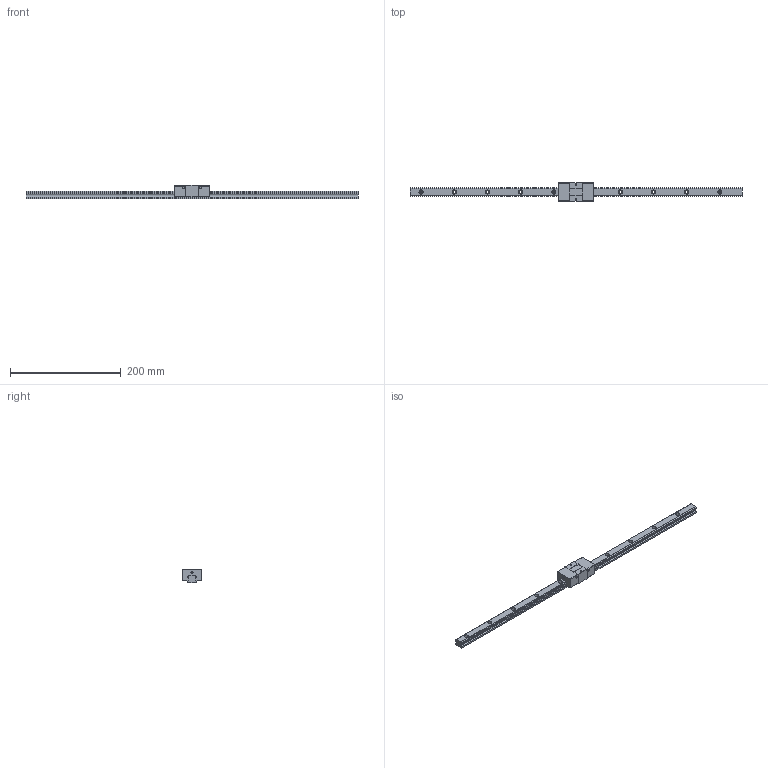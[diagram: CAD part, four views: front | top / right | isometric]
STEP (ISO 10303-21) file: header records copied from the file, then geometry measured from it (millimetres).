
FILE_DESCRIPTION (( 'STEP AP203' ), '1' );
FILE_NAME ('TRS15VS-DZ.STEP', '2024-07-12T03:49:55', ( '' ), ( '' ), 'SwSTEP 2.0', 'SolidWorks 2022', '' );
FILE_SCHEMA (( 'CONFIG_CONTROL_DESIGN' ));
Length unit declared in the file: millimetre
Products named in the file (1): TRS15VS-DZ
Bounding box: 600 x 34 x 24 mm (x, y, z)
Volume: 135732.1 mm3; surface area: 47025.2 mm2
Topology: 2 solids, 2 shells, 186 faces, 484 edges, 320 vertices
Faces by surface type: plane 94, cylinder 92
Entity records: 5863 total; most frequent: DIRECTION 1042, CARTESIAN_POINT 991, ORIENTED_EDGE 968, EDGE_CURVE 484, AXIS2_PLACEMENT_3D 371, VERTEX_POINT 320, VECTOR 300, LINE 300
